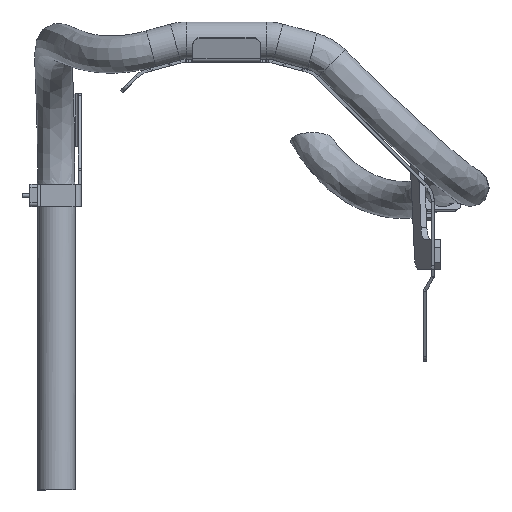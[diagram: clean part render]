
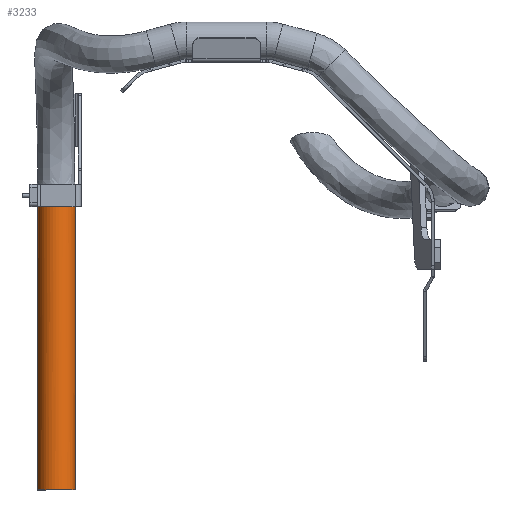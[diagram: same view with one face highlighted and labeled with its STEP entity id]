
A CAD part, left-side view. The second image highlights one B-rep face of the part: STEP entity #3233.
In plain terms, the highlighted cylindrical face has radius 25 mm (diameter 50 mm), a full revolution.
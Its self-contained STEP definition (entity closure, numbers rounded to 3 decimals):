
#59 = EDGE_LOOP ( 'NONE', ( #1506 ) ) ;
#374 = FACE_OUTER_BOUND ( 'NONE', #9885, .T. ) ;
#1496 = VERTEX_POINT ( 'NONE', #14272 ) ;
#1506 = ORIENTED_EDGE ( 'NONE', *, *, #13038, .F. ) ;
#2212 = AXIS2_PLACEMENT_3D ( 'NONE', #3422, #5009, #13043 ) ;
#2711 = FACE_OUTER_BOUND ( 'NONE', #59, .T. ) ;
#3077 = CARTESIAN_POINT ( 'NONE',  ( 7., 25., 338.182 ) ) ;
#3233 = ADVANCED_FACE ( 'NONE', ( #374, #2711 ), #9369, .T. ) ;
#3422 = CARTESIAN_POINT ( 'NONE',  ( 7., 25., 714.5 ) ) ;
#3784 = VERTEX_POINT ( 'NONE', #8386 ) ;
#3785 = CARTESIAN_POINT ( 'NONE',  ( 7., 25., 338.182 ) ) ;
#5009 = DIRECTION ( 'NONE',  ( 0., 0., -1. ) ) ;
#5999 = DIRECTION ( 'NONE',  ( -0.955, -0.295, 0. ) ) ;
#7771 = AXIS2_PLACEMENT_3D ( 'NONE', #3077, #13399, #5999 ) ;
#8386 = CARTESIAN_POINT ( 'NONE',  ( 32., 25., 714.5 ) ) ;
#8445 = AXIS2_PLACEMENT_3D ( 'NONE', #3785, #10510, #10430 ) ;
#8509 = CIRCLE ( 'NONE', #7771, 25. ) ;
#9369 = CYLINDRICAL_SURFACE ( 'NONE', #8445, 25. ) ;
#9774 = EDGE_CURVE ( 'NONE', #3784, #3784, #10689, .T. ) ;
#9885 = EDGE_LOOP ( 'NONE', ( #10333 ) ) ;
#10333 = ORIENTED_EDGE ( 'NONE', *, *, #9774, .T. ) ;
#10430 = DIRECTION ( 'NONE',  ( 1., 0., 0. ) ) ;
#10510 = DIRECTION ( 'NONE',  ( 0., 0., 1. ) ) ;
#10689 = CIRCLE ( 'NONE', #2212, 25. ) ;
#13038 = EDGE_CURVE ( 'NONE', #1496, #1496, #8509, .T. ) ;
#13043 = DIRECTION ( 'NONE',  ( 1., 0., 0. ) ) ;
#13399 = DIRECTION ( 'NONE',  ( 0., 0., -1. ) ) ;
#14272 = CARTESIAN_POINT ( 'NONE',  ( -16.885, 17.616, 338.182 ) ) ;
